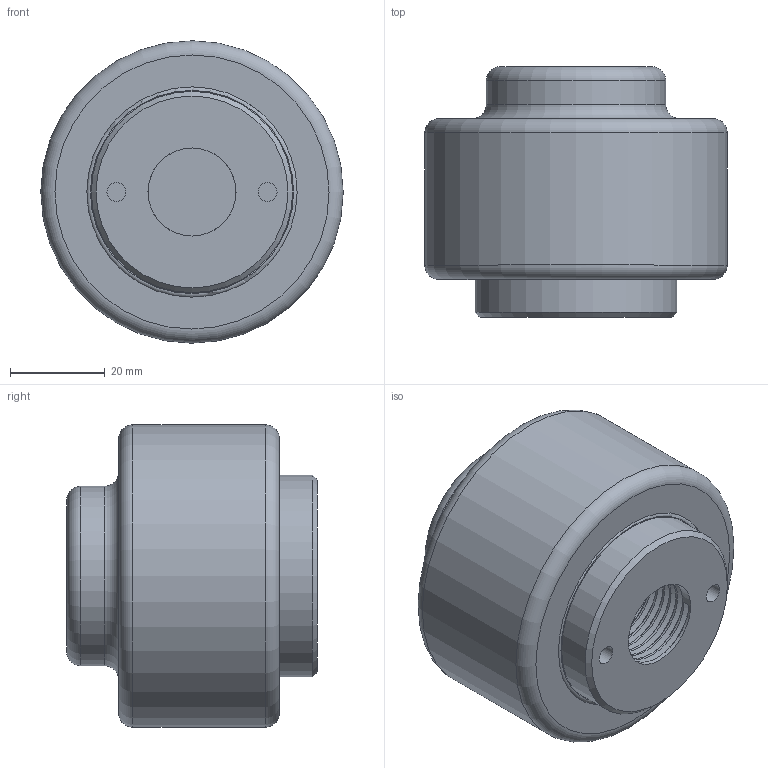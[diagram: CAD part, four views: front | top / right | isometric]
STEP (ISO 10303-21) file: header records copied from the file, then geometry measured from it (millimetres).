
FILE_DESCRIPTION (( 'STEP AP214' ), '1' );
FILE_NAME ('1-2-P601-0X.STEP', '2021-05-12T11:41:23', ( '' ), ( '' ), 'SwSTEP 2.0', 'SolidWorks 2020', '' );
FILE_SCHEMA (( 'AUTOMOTIVE_DESIGN' ));
Length unit declared in the file: millimetre
Products named in the file (3): 0.25 inch gauge seal plug; 0.5 inch gauge seal housing; 1-2-P601-0X
Assembly tree (2 placements, depth 2):
  1-2-P601-0X
    0.25 inch gauge seal plug
    0.5 inch gauge seal housing
Bounding box: 64 x 53 x 64 mm (x, y, z)
Volume: 122432.6 mm3; surface area: 27068.3 mm2
Topology: 2 solids, 2 shells, 65 faces, 154 edges, 101 vertices
Faces by surface type: cylinder 25, plane 19, bspline 13, torus 5, cone 3
Full cylindrical faces by diameter (mm): 4 x2, 18.631 x7, 21.996 x1, 38 x1, 42.6 x1, 44.5 x9, 64 x1
Entity records: 6781 total; most frequent: CARTESIAN_POINT 5836, ORIENTED_EDGE 168, DIRECTION 152, EDGE_CURVE 84, EDGE_LOOP 75, AXIS2_PLACEMENT_3D 71, FACE_OUTER_BOUND 63, VERTEX_POINT 63
